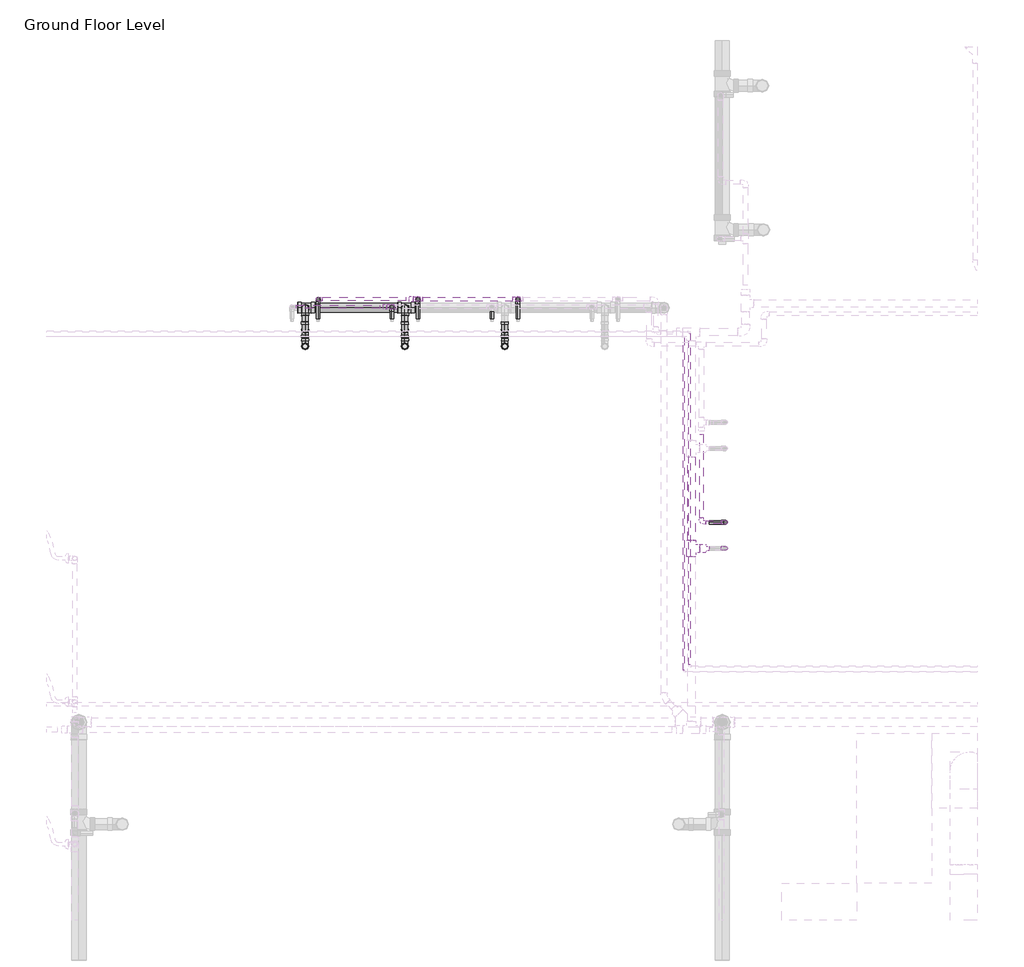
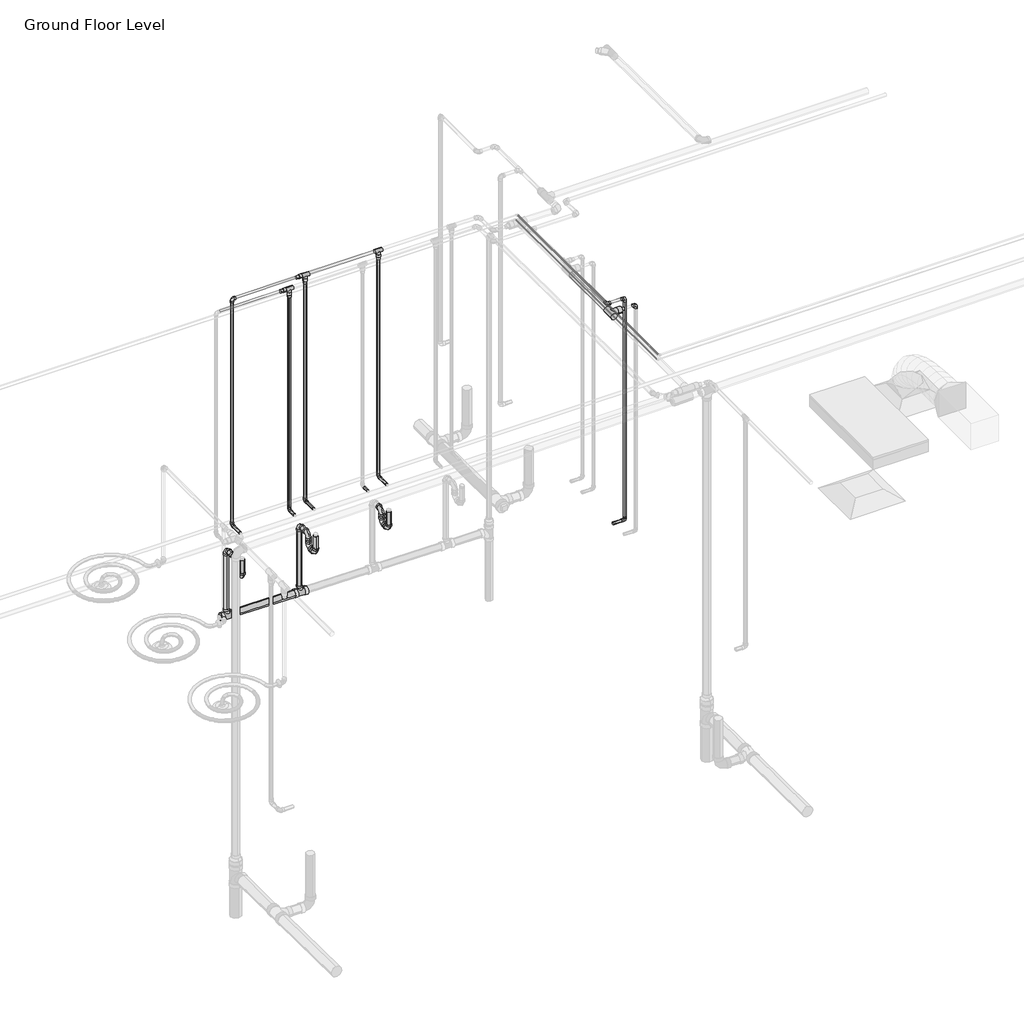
# One storey, part 7 of 75: 33 pipe segments, 32 pipe fittings.
"""IFC4 building model written with IfcOpenShell, lengths in millimetres."""

from ifc_helpers import new_model, si_unit, point, frame, frame_2d, origin, place, context, project, spatial, circle_curve, trimmed, segment, composite_curve, outline, extrude, transform, mapped, element, save
from components import m_bend_pvc_sch_40_dwv_standard_1e7bdcc1, m_bend_pvc_sch_40_dwv_standard_776e50c4, m_bend_pvc_sch_40_dwv_standard_213ff28c, m_tee_reducing_sanitary_pvc_sch_40_dwv_standard_21d2848c, standard_b266ab3f, standard_72b35c3b, standard_cd25fed3, standard_e954f56a, standard_9d5ac8af

model = new_model("IFC4")

# Units and contexts
model_context = context("Model", 3, world=origin())
ifc_project = project(units=[si_unit("LENGTHUNIT", "METRE", prefix="MILLI")], contexts=[model_context])

# Site, building, storey
site = spatial("IfcSite", under=ifc_project)
building = spatial("IfcBuilding", under=site)
storey = spatial("IfcBuildingStorey", under=building, Name="Ground Floor Level", Elevation=900.0)

# Pipe fittings
placement = place(None, origin())
m_bend_pvc_sch_40_dwv_standard_shape = m_bend_pvc_sch_40_dwv_standard_1e7bdcc1(model_context)
element("IfcPipeFitting", 1, ObjectType="M_Bend - PVC - Sch 40 - DWV : Standard", at=placement, inside=storey, context=model_context, shape_type="MappedRepresentation", body=[
    mapped(m_bend_pvc_sch_40_dwv_standard_shape, transform((-3973.215321, -33168.3528578, 1345.0), x_axis=(0.0, 0.0, -1.0), y_axis=(0.0, 1.0, 0.0), z_axis=(1.0, 0.0, 0.0))),
])
element("IfcPipeFitting", 2, ObjectType="M_Bend - PVC - Sch 40 - DWV : Standard", at=placement, inside=storey, context=model_context, shape_type="MappedRepresentation", body=[
    mapped(m_bend_pvc_sch_40_dwv_standard_shape, transform((-3173.215321, -32858.7119065, 1488.3035905), x_axis=(0.0, 0.9999500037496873, -0.009999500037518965), y_axis=(0.0, -0.009999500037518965, -0.9999500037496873), z_axis=(-1.0, 0.0, 0.0))),
])
element("IfcPipeFitting", 3, ObjectType="M_Bend - PVC - Sch 40 - DWV : Standard", at=placement, inside=storey, context=model_context, shape_type="MappedRepresentation", body=[
    mapped(m_bend_pvc_sch_40_dwv_standard_shape, transform((-3173.215321, -33168.3528578, 1345.0), x_axis=(0.0, -0.9999500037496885, 0.009999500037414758), y_axis=(0.0, 0.009999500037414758, 0.9999500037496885), z_axis=(-1.0, 0.0, 0.0))),
])
element("IfcPipeFitting", 4, ObjectType="M_Bend - PVC - Sch 40 - DWV : Standard", at=placement, inside=storey, context=model_context, shape_type="MappedRepresentation", body=[
    mapped(m_bend_pvc_sch_40_dwv_standard_shape, transform((-2373.215321, -33168.3528578, 1344.95), x_axis=(0.0, -0.9999500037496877, 0.009999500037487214), y_axis=(0.0, 0.009999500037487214, 0.9999500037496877), z_axis=(-1.0, 0.0, 0.0))),
])
m_bend_pvc_sch_40_dwv_standard_2_shape = m_bend_pvc_sch_40_dwv_standard_776e50c4(model_context)
element("IfcPipeFitting", 5, ObjectType="M_Bend - PVC - Sch 40 - DWV : Standard", at=placement, inside=storey, context=model_context, shape_type="MappedRepresentation", body=[
    mapped(m_bend_pvc_sch_40_dwv_standard_2_shape, transform((-3973.215321, -33033.3528578, 1343.6), x_axis=(0.0, 0.9999500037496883, -0.009999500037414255), y_axis=(0.0, 0.009999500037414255, 0.9999500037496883), z_axis=(1.0, 0.0, 0.0))),
])
element("IfcPipeFitting", 6, ObjectType="M_Bend - PVC - Sch 40 - DWV : Standard", at=placement, inside=storey, context=model_context, shape_type="MappedRepresentation", body=[
    mapped(m_bend_pvc_sch_40_dwv_standard_2_shape, transform((-3973.215321, -33033.3528578, 1490.0), x_axis=(0.0, 0.0, 1.0), y_axis=(0.0, 1.0, 0.0), z_axis=(-1.0, 0.0, 0.0))),
])
element("IfcPipeFitting", 7, ObjectType="M_Bend - PVC - Sch 40 - DWV : Standard", at=placement, inside=storey, context=model_context, shape_type="MappedRepresentation", body=[
    mapped(m_bend_pvc_sch_40_dwv_standard_2_shape, transform((-3173.215321, -33033.3528578, 1343.6), x_axis=(0.0, 0.9999500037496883, -0.009999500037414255), y_axis=(0.0, 0.009999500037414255, 0.9999500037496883), z_axis=(1.0, 0.0, 0.0))),
])
element("IfcPipeFitting", 8, ObjectType="M_Bend - PVC - Sch 40 - DWV : Standard", at=placement, inside=storey, context=model_context, shape_type="MappedRepresentation", body=[
    mapped(m_bend_pvc_sch_40_dwv_standard_2_shape, transform((-3173.215321, -33033.3528578, 1490.0), x_axis=(0.0, 0.0, 1.0), y_axis=(0.0, 1.0, 0.0), z_axis=(-1.0, 0.0, 0.0))),
])
element("IfcPipeFitting", 9, ObjectType="M_Bend - PVC - Sch 40 - DWV : Standard", at=placement, inside=storey, context=model_context, shape_type="MappedRepresentation", body=[
    mapped(m_bend_pvc_sch_40_dwv_standard_2_shape, transform((-2373.215321, -33033.3528578, 1343.6), x_axis=(0.0, 0.9999500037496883, -0.009999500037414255), y_axis=(0.0, 0.009999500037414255, 0.9999500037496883), z_axis=(1.0, 0.0, 0.0))),
])
element("IfcPipeFitting", 10, ObjectType="M_Bend - PVC - Sch 40 - DWV : Standard", at=placement, inside=storey, context=model_context, shape_type="MappedRepresentation", body=[
    mapped(m_bend_pvc_sch_40_dwv_standard_2_shape, transform((-2373.215321, -33033.3528578, 1490.0), x_axis=(0.0, 0.0, 1.0), y_axis=(0.0, 1.0, 0.0), z_axis=(-1.0, 0.0, 0.0))),
])
m_bend_pvc_sch_40_dwv_standard_3_shape = m_bend_pvc_sch_40_dwv_standard_213ff28c(model_context)
element("IfcPipeFitting", 11, ObjectType="M_Bend - PVC - Sch 40 - DWV : Standard", at=placement, inside=storey, context=model_context, shape_type="MappedRepresentation", body=[
    mapped(m_bend_pvc_sch_40_dwv_standard_3_shape, transform((-3973.215321, -32858.7119065, 1488.3035905), x_axis=(0.0, 0.9999543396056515, -0.009556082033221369), y_axis=(0.0, -0.009556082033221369, -0.9999543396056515), z_axis=(-1.0, 0.0, 0.0))),
])
m_tee_reducing_sanitary_pvc_sch_40_dwv_standard_shape = m_tee_reducing_sanitary_pvc_sch_40_dwv_standard_21d2848c(model_context)
element("IfcPipeFitting", 12, ObjectType="M_Tee Reducing Sanitary - PVC - Sch 40 - DWV : Standard", at=placement, inside=storey, context=model_context, shape_type="MappedRepresentation", body=[
    mapped(m_tee_reducing_sanitary_pvc_sch_40_dwv_standard_shape, transform((-3973.215321, -32858.7119065, 718.4349821), x_axis=(-0.9999500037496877, 0.0, 0.009999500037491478), y_axis=(-0.009999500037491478, 0.0, -0.9999500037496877), z_axis=(0.0, -1.0, 0.0))),
])
element("IfcPipeFitting", 13, ObjectType="M_Tee Reducing Sanitary - PVC - Sch 40 - DWV : Standard", at=placement, inside=storey, context=model_context, shape_type="MappedRepresentation", body=[
    mapped(m_tee_reducing_sanitary_pvc_sch_40_dwv_standard_shape, transform((-3173.215321, -32858.7119065, 710.4349821), x_axis=(-0.9999500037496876, 0.0, 0.009999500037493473), y_axis=(-0.009999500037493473, 0.0, -0.9999500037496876), z_axis=(0.0, -1.0, 0.0))),
])
standard_shape = standard_b266ab3f(model_context)
element("IfcPipeFitting", 14, ObjectType="M_Elbow - CPVC - Sch 40 : Standard", at=placement, inside=storey, context=model_context, shape_type="MappedRepresentation", body=[
    mapped(standard_shape, transform((-2268.9004005, -32789.6855451, 1690.0), x_axis=(0.0, 0.0, -1.0), y_axis=(0.0, -1.0, 0.0), z_axis=(-1.0, 0.0, 0.0))),
])
element("IfcPipeFitting", 15, ObjectType="M_Elbow - CPVC - Sch 40 : Standard", at=placement, inside=storey, context=model_context, shape_type="MappedRepresentation", body=[
    mapped(standard_shape, transform((-3068.9004005, -32789.6855451, 1690.0), x_axis=(0.0, 0.0, -1.0), y_axis=(0.0, -1.0, 0.0), z_axis=(-1.0, 0.0, 0.0))),
])
element("IfcPipeFitting", 16, ObjectType="M_Elbow - CPVC - Sch 40 : Standard", at=placement, inside=storey, context=model_context, shape_type="MappedRepresentation", body=[
    mapped(standard_shape, transform((-3868.9004005, -32789.6855451, 1690.0), x_axis=(0.0, 0.0, -1.0), y_axis=(0.0, -1.0, 0.0), z_axis=(-1.0, 0.0, 0.0))),
])
element("IfcPipeFitting", 17, ObjectType="M_Elbow - CPVC - Sch 40 : Standard", at=placement, inside=storey, context=model_context, shape_type="MappedRepresentation", body=[
    mapped(standard_shape, transform((-3868.9004005, -32789.6855451, 4300.0), x_axis=(-1.0, 0.0, 0.0), y_axis=(0.0, 0.0, -1.0), z_axis=(0.0, -1.0, 0.0))),
])
element("IfcPipeFitting", 18, ObjectType="M_Elbow - CPVC - Sch 40 : Standard", at=placement, inside=storey, context=model_context, shape_type="MappedRepresentation", body=[
    mapped(standard_shape, transform((-607.2327605, -34785.0821277, 4300.0), x_axis=(0.0, 0.0, 1.0), y_axis=(-1.0, 0.0, 0.0), z_axis=(0.0, -1.0, 0.0))),
])
element("IfcPipeFitting", 19, ObjectType="M_Elbow - CPVC - Sch 40 : Standard", at=placement, inside=storey, context=model_context, shape_type="MappedRepresentation", body=[
    mapped(standard_shape, transform((-607.2327605, -34576.4522865, 1690.0), x_axis=(1.0, 0.0, 0.0), y_axis=(0.0, 0.0, 1.0), z_axis=(0.0, -1.0, 0.0))),
])
element("IfcPipeFitting", 20, ObjectType="M_Elbow - CPVC - Sch 40 : Standard", at=placement, inside=storey, context=model_context, shape_type="MappedRepresentation", body=[
    mapped(standard_shape, transform((-607.2327605, -34576.4522865, 4250.0), x_axis=(0.0, 0.0, 1.0), y_axis=(-1.0, 0.0, 0.0), z_axis=(0.0, -1.0, 0.0))),
])
element("IfcPipeFitting", 21, ObjectType="M_Elbow - CPVC - Sch 40 : Standard", at=placement, inside=storey, context=model_context, shape_type="MappedRepresentation", body=[
    mapped(standard_shape, transform((-800.2875664, -34576.4522865, 4250.0), x_axis=(0.0, -1.0, 0.0), y_axis=(1.0, 0.0, 0.0), z_axis=(0.0, 0.0, 1.0))),
])
element("IfcPipeFitting", 22, ObjectType="M_Elbow - CPVC - Sch 40 : Standard", at=placement, inside=storey, context=model_context, shape_type="MappedRepresentation", body=[
    mapped(standard_shape, transform((-3277.5302417, -32850.870708, 1690.0), x_axis=(0.0, 0.0, -1.0), y_axis=(0.0, -1.0, 0.0), z_axis=(-1.0, 0.0, 0.0))),
])
standard_2_shape = standard_72b35c3b(model_context)
element("IfcPipeFitting", 23, ObjectType="M_Tee - CPVC - Sch 40 : Standard", at=placement, inside=storey, context=model_context, shape_type="MappedRepresentation", body=[
    mapped(standard_2_shape, transform((-2268.9004005, -32789.6855451, 4300.0), x_axis=(1.0, 0.0, 0.0), y_axis=(0.0, 0.0, 1.0), z_axis=(0.0, -1.0, 0.0))),
])
element("IfcPipeFitting", 24, ObjectType="M_Tee - CPVC - Sch 40 : Standard", at=placement, inside=storey, context=model_context, shape_type="MappedRepresentation", body=[
    mapped(standard_2_shape, transform((-3068.9004005, -32789.6855451, 4300.0), x_axis=(1.0, 0.0, 0.0), y_axis=(0.0, 0.0, 1.0), z_axis=(0.0, -1.0, 0.0))),
])
element("IfcPipeFitting", 25, ObjectType="M_Tee - CPVC - Sch 40 : Standard", at=placement, inside=storey, context=model_context, shape_type="MappedRepresentation", body=[
    mapped(standard_2_shape, transform((-3277.5302417, -32850.870708, 4250.0), x_axis=(1.0, 0.0, 0.0), y_axis=(0.0, 0.0, 1.0), z_axis=(0.0, -1.0, 0.0))),
])
standard_3_shape = standard_cd25fed3(model_context)
element("IfcPipeFitting", 26, ObjectType="M_Tee - CPVC - Sch 40 : Standard", at=placement, inside=storey, context=model_context, shape_type="MappedRepresentation", body=[
    mapped(standard_3_shape, transform((-881.5205995, -34785.0821277, 4300.0), x_axis=(0.0, -1.0, 0.0), y_axis=(-1.0, 0.0, 0.0), z_axis=(0.0, 0.0, -1.0))),
])
standard_4_shape = standard_e954f56a(model_context)
element("IfcPipeFitting", 27, ObjectType="M_Coupling Reducing - CPVC - Sch 40 : Standard", at=placement, inside=storey, context=model_context, shape_type="MappedRepresentation", body=[
    mapped(standard_4_shape, transform((-2268.9004005, -32789.6855451, 4260.2998), x_axis=(0.0, 0.0, -1.0), y_axis=(1.0, 0.0, 0.0), z_axis=(0.0, -1.0, 0.0))),
])
element("IfcPipeFitting", 28, ObjectType="M_Coupling Reducing - CPVC - Sch 40 : Standard", at=placement, inside=storey, context=model_context, shape_type="MappedRepresentation", body=[
    mapped(standard_4_shape, transform((-3068.9004005, -32789.6855451, 4260.2998), x_axis=(0.0, 0.0, -1.0), y_axis=(1.0, 0.0, 0.0), z_axis=(0.0, -1.0, 0.0))),
])
element("IfcPipeFitting", 29, ObjectType="M_Coupling Reducing - CPVC - Sch 40 : Standard", at=placement, inside=storey, context=model_context, shape_type="MappedRepresentation", body=[
    mapped(standard_4_shape, transform((-3108.6006005, -32789.6855451, 4300.0), x_axis=(-1.0, 0.0, 0.0), y_axis=(0.0, -1.0, 0.0), z_axis=(0.0, 0.0, 1.0))),
])
element("IfcPipeFitting", 30, ObjectType="M_Coupling Reducing - CPVC - Sch 40 : Standard", at=placement, inside=storey, context=model_context, shape_type="MappedRepresentation", body=[
    mapped(standard_4_shape, transform((-3277.5302417, -32850.870708, 4210.2998), x_axis=(0.0, 0.0, -1.0), y_axis=(1.0, 0.0, 0.0), z_axis=(0.0, -1.0, 0.0))),
])
element("IfcPipeFitting", 31, ObjectType="M_Coupling Reducing - CPVC - Sch 40 : Standard", at=placement, inside=storey, context=model_context, shape_type="MappedRepresentation", body=[
    mapped(standard_4_shape, transform((-3317.2304417, -32850.870708, 4250.0), x_axis=(-1.0, 0.0, 0.0), y_axis=(0.0, -1.0, 0.0), z_axis=(0.0, 0.0, 1.0))),
])
standard_5_shape = standard_9d5ac8af(model_context)
element("IfcPipeFitting", 32, ObjectType="M_Coupling Reducing - CPVC - Sch 40 : Standard", at=placement, inside=storey, context=model_context, shape_type="MappedRepresentation", body=[
    mapped(standard_5_shape, transform((-814.8455995, -34785.0821277, 4300.0), x_axis=(1.0, 0.0, 0.0), y_axis=(0.0, 1.0, 0.0), z_axis=(0.0, 0.0, 1.0))),
])

# Pipe segments
element("IfcPipeSegment", 33, ObjectType="CPVC", at=placement, inside=storey, context=model_context, shape_type="SweptSolid", body=[
    extrude(outline(composite_curve([segment(trimmed(circle_curve(frame_2d((1690.0, -2268.9004005)), 13.335), [point((1690.0, -2282.2354005))], [point((1676.665, -2268.9004005))], False, "CARTESIAN"), True, "CONTINUOUS"), segment(trimmed(circle_curve(frame_2d((1690.0, -2268.9004005)), 13.335), [point((1676.665, -2268.9004005))], [point((1690.0, -2255.5654005))], False, "CARTESIAN"), True, "CONTINUOUS"), segment(trimmed(circle_curve(frame_2d((1690.0, -2268.9004005)), 13.335), [point((1690.0, -2255.5654005))], [point((1703.335, -2268.9004005))], False, "CARTESIAN"), True, "CONTINUOUS"), segment(trimmed(circle_curve(frame_2d((1690.0, -2268.9004005)), 13.335), [point((1703.335, -2268.9004005))], [point((1690.0, -2282.2354005))], False, "CARTESIAN"), True, "CONTINUOUS")], self_intersect=False)), frame((0.0, -32944.7846466, 0.0), z_axis=(0.0, 1.0, 0.0), x_axis=(0.0, 0.0, 1.0)), (0.0, 0.0, 1.0), 119.7740515),
])
element("IfcPipeSegment", 34, ObjectType="CPVC", at=placement, inside=storey, context=model_context, shape_type="SweptSolid", body=[
    extrude(outline(composite_curve([segment(trimmed(circle_curve(frame_2d((-2268.9004005, -32789.6855451)), 13.335), [point((-2255.5654005, -32789.6855451))], [point((-2268.9004005, -32803.0205451))], False, "CARTESIAN"), True, "CONTINUOUS"), segment(trimmed(circle_curve(frame_2d((-2268.9004005, -32789.6855451)), 13.335), [point((-2268.9004005, -32803.0205451))], [point((-2282.2354005, -32789.6855451))], False, "CARTESIAN"), True, "CONTINUOUS"), segment(trimmed(circle_curve(frame_2d((-2268.9004005, -32789.6855451)), 13.335), [point((-2282.2354005, -32789.6855451))], [point((-2268.9004005, -32776.3505451))], False, "CARTESIAN"), True, "CONTINUOUS"), segment(trimmed(circle_curve(frame_2d((-2268.9004005, -32789.6855451)), 13.335), [point((-2268.9004005, -32776.3505451))], [point((-2255.5654005, -32789.6855451))], False, "CARTESIAN"), True, "CONTINUOUS")], self_intersect=False)), frame((0.0, 0.0, 1725.32505), z_axis=(0.0, 0.0, 1.0), x_axis=(1.0, 0.0, 0.0)), (0.0, 0.0, 1.0), 2477.82475),
])
element("IfcPipeSegment", 35, ObjectType="CPVC", at=placement, inside=storey, context=model_context, shape_type="SweptSolid", body=[
    extrude(outline(composite_curve([segment(trimmed(circle_curve(frame_2d((1690.0, -3068.9004005)), 13.335), [point((1690.0, -3082.2354005))], [point((1676.665, -3068.9004005))], False, "CARTESIAN"), True, "CONTINUOUS"), segment(trimmed(circle_curve(frame_2d((1690.0, -3068.9004005)), 13.335), [point((1676.665, -3068.9004005))], [point((1690.0, -3055.5654005))], False, "CARTESIAN"), True, "CONTINUOUS"), segment(trimmed(circle_curve(frame_2d((1690.0, -3068.9004005)), 13.335), [point((1690.0, -3055.5654005))], [point((1703.335, -3068.9004005))], False, "CARTESIAN"), True, "CONTINUOUS"), segment(trimmed(circle_curve(frame_2d((1690.0, -3068.9004005)), 13.335), [point((1703.335, -3068.9004005))], [point((1690.0, -3082.2354005))], False, "CARTESIAN"), True, "CONTINUOUS")], self_intersect=False)), frame((0.0, -32944.7846466, 0.0), z_axis=(0.0, 1.0, 0.0), x_axis=(0.0, 0.0, 1.0)), (0.0, 0.0, 1.0), 119.7740515),
])
element("IfcPipeSegment", 36, ObjectType="CPVC", at=placement, inside=storey, context=model_context, shape_type="SweptSolid", body=[
    extrude(outline(composite_curve([segment(trimmed(circle_curve(frame_2d((-3068.9004005, -32789.6855451)), 13.335), [point((-3055.5654005, -32789.6855451))], [point((-3068.9004005, -32803.0205451))], False, "CARTESIAN"), True, "CONTINUOUS"), segment(trimmed(circle_curve(frame_2d((-3068.9004005, -32789.6855451)), 13.335), [point((-3068.9004005, -32803.0205451))], [point((-3082.2354005, -32789.6855451))], False, "CARTESIAN"), True, "CONTINUOUS"), segment(trimmed(circle_curve(frame_2d((-3068.9004005, -32789.6855451)), 13.335), [point((-3082.2354005, -32789.6855451))], [point((-3068.9004005, -32776.3505451))], False, "CARTESIAN"), True, "CONTINUOUS"), segment(trimmed(circle_curve(frame_2d((-3068.9004005, -32789.6855451)), 13.335), [point((-3068.9004005, -32776.3505451))], [point((-3055.5654005, -32789.6855451))], False, "CARTESIAN"), True, "CONTINUOUS")], self_intersect=False)), frame((0.0, 0.0, 1725.32505), z_axis=(0.0, 0.0, 1.0), x_axis=(1.0, 0.0, 0.0)), (0.0, 0.0, 1.0), 2477.82475),
])
element("IfcPipeSegment", 37, ObjectType="CPVC", at=placement, inside=storey, context=model_context, shape_type="SweptSolid", body=[
    extrude(outline(composite_curve([segment(trimmed(circle_curve(frame_2d((-32789.6855451, 4300.0)), 16.7005), [point((-32772.9850451, 4300.0))], [point((-32789.6855451, 4283.2995))], False, "CARTESIAN"), True, "CONTINUOUS"), segment(trimmed(circle_curve(frame_2d((-32789.6855451, 4300.0)), 16.7005), [point((-32789.6855451, 4283.2995))], [point((-32806.3860451, 4300.0))], False, "CARTESIAN"), True, "CONTINUOUS"), segment(trimmed(circle_curve(frame_2d((-32789.6855451, 4300.0)), 16.7005), [point((-32806.3860451, 4300.0))], [point((-32789.6855451, 4316.7005))], False, "CARTESIAN"), True, "CONTINUOUS"), segment(trimmed(circle_curve(frame_2d((-32789.6855451, 4300.0)), 16.7005), [point((-32789.6855451, 4316.7005))], [point((-32772.9850451, 4300.0))], False, "CARTESIAN"), True, "CONTINUOUS")], self_intersect=False)), frame((-3029.2002005, 0.0, 0.0), z_axis=(1.0, 0.0, 0.0), x_axis=(0.0, 1.0, 0.0)), (0.0, 0.0, 1.0), 720.5996),
])
element("IfcPipeSegment", 38, ObjectType="CPVC", at=placement, inside=storey, context=model_context, shape_type="SweptSolid", body=[
    extrude(outline(composite_curve([segment(trimmed(circle_curve(frame_2d((1690.0, -3868.9004005)), 13.335), [point((1690.0, -3882.2354005))], [point((1676.665, -3868.9004005))], False, "CARTESIAN"), True, "CONTINUOUS"), segment(trimmed(circle_curve(frame_2d((1690.0, -3868.9004005)), 13.335), [point((1676.665, -3868.9004005))], [point((1690.0, -3855.5654005))], False, "CARTESIAN"), True, "CONTINUOUS"), segment(trimmed(circle_curve(frame_2d((1690.0, -3868.9004005)), 13.335), [point((1690.0, -3855.5654005))], [point((1703.335, -3868.9004005))], False, "CARTESIAN"), True, "CONTINUOUS"), segment(trimmed(circle_curve(frame_2d((1690.0, -3868.9004005)), 13.335), [point((1703.335, -3868.9004005))], [point((1690.0, -3882.2354005))], False, "CARTESIAN"), True, "CONTINUOUS")], self_intersect=False)), frame((0.0, -32944.7846466, 0.0), z_axis=(0.0, 1.0, 0.0), x_axis=(0.0, 0.0, 1.0)), (0.0, 0.0, 1.0), 119.7740515),
])
element("IfcPipeSegment", 39, ObjectType="CPVC", at=placement, inside=storey, context=model_context, shape_type="SweptSolid", body=[
    extrude(outline(composite_curve([segment(trimmed(circle_curve(frame_2d((-3868.9004005, -32789.6855451)), 13.335), [point((-3855.5654005, -32789.6855451))], [point((-3868.9004005, -32803.0205451))], False, "CARTESIAN"), True, "CONTINUOUS"), segment(trimmed(circle_curve(frame_2d((-3868.9004005, -32789.6855451)), 13.335), [point((-3868.9004005, -32803.0205451))], [point((-3882.2354005, -32789.6855451))], False, "CARTESIAN"), True, "CONTINUOUS"), segment(trimmed(circle_curve(frame_2d((-3868.9004005, -32789.6855451)), 13.335), [point((-3882.2354005, -32789.6855451))], [point((-3868.9004005, -32776.3505451))], False, "CARTESIAN"), True, "CONTINUOUS"), segment(trimmed(circle_curve(frame_2d((-3868.9004005, -32789.6855451)), 13.335), [point((-3868.9004005, -32776.3505451))], [point((-3855.5654005, -32789.6855451))], False, "CARTESIAN"), True, "CONTINUOUS")], self_intersect=False)), frame((0.0, 0.0, 1725.32505), z_axis=(0.0, 0.0, 1.0), x_axis=(1.0, 0.0, 0.0)), (0.0, 0.0, 1.0), 2539.3499),
])
element("IfcPipeSegment", 40, ObjectType="CPVC", at=placement, inside=storey, context=model_context, shape_type="SweptSolid", body=[
    extrude(outline(composite_curve([segment(trimmed(circle_curve(frame_2d((-32789.6855451, 4300.0)), 13.335), [point((-32776.3505451, 4300.0))], [point((-32789.6855451, 4286.665))], False, "CARTESIAN"), True, "CONTINUOUS"), segment(trimmed(circle_curve(frame_2d((-32789.6855451, 4300.0)), 13.335), [point((-32789.6855451, 4286.665))], [point((-32803.0205451, 4300.0))], False, "CARTESIAN"), True, "CONTINUOUS"), segment(trimmed(circle_curve(frame_2d((-32789.6855451, 4300.0)), 13.335), [point((-32803.0205451, 4300.0))], [point((-32789.6855451, 4313.335))], False, "CARTESIAN"), True, "CONTINUOUS"), segment(trimmed(circle_curve(frame_2d((-32789.6855451, 4300.0)), 13.335), [point((-32789.6855451, 4313.335))], [point((-32776.3505451, 4300.0))], False, "CARTESIAN"), True, "CONTINUOUS")], self_intersect=False)), frame((-3833.5753505, 0.0, 0.0), z_axis=(1.0, 0.0, 0.0), x_axis=(0.0, 1.0, 0.0)), (0.0, 0.0, 1.0), 667.82475),
])
element("IfcPipeSegment", 41, ObjectType="CPVC", at=placement, inside=storey, context=model_context, shape_type="SweptSolid", body=[
    extrude(outline(composite_curve([segment(trimmed(circle_curve(frame_2d((4300.0, -881.5205995)), 30.1625), [point((4300.0, -911.6830995))], [point((4269.8375, -881.5205995))], False, "CARTESIAN"), True, "CONTINUOUS"), segment(trimmed(circle_curve(frame_2d((4300.0, -881.5205995)), 30.1625), [point((4269.8375, -881.5205995))], [point((4300.0, -851.3580995))], False, "CARTESIAN"), True, "CONTINUOUS"), segment(trimmed(circle_curve(frame_2d((4300.0, -881.5205995)), 30.1625), [point((4300.0, -851.3580995))], [point((4330.1625, -881.5205995))], False, "CARTESIAN"), True, "CONTINUOUS"), segment(trimmed(circle_curve(frame_2d((4300.0, -881.5205995)), 30.1625), [point((4330.1625, -881.5205995))], [point((4300.0, -911.6830995))], False, "CARTESIAN"), True, "CONTINUOUS")], self_intersect=False)), frame((0.0, -34718.4071277, 0.0), z_axis=(0.0, 1.0, 0.0), x_axis=(0.0, 0.0, 1.0)), (0.0, 0.0, 1.0), 666.65),
])
element("IfcPipeSegment", 42, ObjectType="CPVC", at=placement, inside=storey, context=model_context, shape_type="SweptSolid", body=[
    extrude(outline(composite_curve([segment(trimmed(circle_curve(frame_2d((-34576.4522865, 1690.0)), 13.335), [point((-34589.7872865, 1690.0))], [point((-34576.4522865, 1703.335))], False, "CARTESIAN"), True, "CONTINUOUS"), segment(trimmed(circle_curve(frame_2d((-34576.4522865, 1690.0)), 13.335), [point((-34576.4522865, 1703.335))], [point((-34563.1172865, 1690.0))], False, "CARTESIAN"), True, "CONTINUOUS"), segment(trimmed(circle_curve(frame_2d((-34576.4522865, 1690.0)), 13.335), [point((-34563.1172865, 1690.0))], [point((-34576.4522865, 1676.665))], False, "CARTESIAN"), True, "CONTINUOUS"), segment(trimmed(circle_curve(frame_2d((-34576.4522865, 1690.0)), 13.335), [point((-34576.4522865, 1676.665))], [point((-34589.7872865, 1690.0))], False, "CARTESIAN"), True, "CONTINUOUS")], self_intersect=False)), frame((-737.2327605, 0.0, 0.0), z_axis=(1.0, 0.0, 0.0), x_axis=(0.0, 1.0, 0.0)), (0.0, 0.0, 1.0), 94.67495),
])
element("IfcPipeSegment", 43, ObjectType="CPVC", at=placement, inside=storey, context=model_context, shape_type="SweptSolid", body=[
    extrude(outline(composite_curve([segment(trimmed(circle_curve(frame_2d((-34576.4522865, 4250.0)), 13.335), [point((-34589.7872865, 4250.0))], [point((-34576.4522865, 4263.335))], False, "CARTESIAN"), True, "CONTINUOUS"), segment(trimmed(circle_curve(frame_2d((-34576.4522865, 4250.0)), 13.335), [point((-34576.4522865, 4263.335))], [point((-34563.1172865, 4250.0))], False, "CARTESIAN"), True, "CONTINUOUS"), segment(trimmed(circle_curve(frame_2d((-34576.4522865, 4250.0)), 13.335), [point((-34563.1172865, 4250.0))], [point((-34576.4522865, 4236.665))], False, "CARTESIAN"), True, "CONTINUOUS"), segment(trimmed(circle_curve(frame_2d((-34576.4522865, 4250.0)), 13.335), [point((-34576.4522865, 4236.665))], [point((-34589.7872865, 4250.0))], False, "CARTESIAN"), True, "CONTINUOUS")], self_intersect=False)), frame((-764.9625164, 0.0, 0.0), z_axis=(1.0, 0.0, 0.0), x_axis=(0.0, 1.0, 0.0)), (0.0, 0.0, 1.0), 122.4047059),
])
element("IfcPipeSegment", 44, ObjectType="CPVC", at=placement, inside=storey, context=model_context, shape_type="SweptSolid", body=[
    extrude(outline(composite_curve([segment(trimmed(circle_curve(frame_2d((-607.2327605, -34576.4522865)), 13.335), [point((-620.5677605, -34576.4522865))], [point((-607.2327605, -34563.1172865))], False, "CARTESIAN"), True, "CONTINUOUS"), segment(trimmed(circle_curve(frame_2d((-607.2327605, -34576.4522865)), 13.335), [point((-607.2327605, -34563.1172865))], [point((-593.8977605, -34576.4522865))], False, "CARTESIAN"), True, "CONTINUOUS"), segment(trimmed(circle_curve(frame_2d((-607.2327605, -34576.4522865)), 13.335), [point((-593.8977605, -34576.4522865))], [point((-607.2327605, -34589.7872865))], False, "CARTESIAN"), True, "CONTINUOUS"), segment(trimmed(circle_curve(frame_2d((-607.2327605, -34576.4522865)), 13.335), [point((-607.2327605, -34589.7872865))], [point((-620.5677605, -34576.4522865))], False, "CARTESIAN"), True, "CONTINUOUS")], self_intersect=False)), frame((0.0, 0.0, 1725.32505), z_axis=(0.0, 0.0, 1.0), x_axis=(1.0, 0.0, 0.0)), (0.0, 0.0, 1.0), 2489.3499),
])
element("IfcPipeSegment", 45, ObjectType="CPVC", at=placement, inside=storey, context=model_context, shape_type="SweptSolid", body=[
    extrude(outline(composite_curve([segment(trimmed(circle_curve(frame_2d((4250.0, -800.2875664)), 13.335), [point((4250.0, -813.6225664))], [point((4236.665, -800.2875664))], False, "CARTESIAN"), True, "CONTINUOUS"), segment(trimmed(circle_curve(frame_2d((4250.0, -800.2875664)), 13.335), [point((4236.665, -800.2875664))], [point((4250.0, -786.9525664))], False, "CARTESIAN"), True, "CONTINUOUS"), segment(trimmed(circle_curve(frame_2d((4250.0, -800.2875664)), 13.335), [point((4250.0, -786.9525664))], [point((4263.335, -800.2875664))], False, "CARTESIAN"), True, "CONTINUOUS"), segment(trimmed(circle_curve(frame_2d((4250.0, -800.2875664)), 13.335), [point((4263.335, -800.2875664))], [point((4250.0, -813.6225664))], False, "CARTESIAN"), True, "CONTINUOUS")], self_intersect=False)), frame((0.0, -34541.1272365, 0.0), z_axis=(0.0, 1.0, 0.0), x_axis=(0.0, 0.0, 1.0)), (0.0, 0.0, 1.0), 667.82475),
])
element("IfcPipeSegment", 46, ObjectType="CPVC", at=placement, inside=storey, context=model_context, shape_type="SweptSolid", body=[
    extrude(outline(composite_curve([segment(trimmed(circle_curve(frame_2d((1690.0, -2477.5302417)), 13.335), [point((1690.0, -2490.8652417))], [point((1676.665, -2477.5302417))], False, "CARTESIAN"), True, "CONTINUOUS"), segment(trimmed(circle_curve(frame_2d((1690.0, -2477.5302417)), 13.335), [point((1676.665, -2477.5302417))], [point((1690.0, -2464.1952417))], False, "CARTESIAN"), True, "CONTINUOUS"), segment(trimmed(circle_curve(frame_2d((1690.0, -2477.5302417)), 13.335), [point((1690.0, -2464.1952417))], [point((1703.335, -2477.5302417))], False, "CARTESIAN"), True, "CONTINUOUS"), segment(trimmed(circle_curve(frame_2d((1690.0, -2477.5302417)), 13.335), [point((1703.335, -2477.5302417))], [point((1690.0, -2490.8652417))], False, "CARTESIAN"), True, "CONTINUOUS")], self_intersect=False)), frame((0.0, -32944.7846466, 0.0), z_axis=(0.0, 1.0, 0.0), x_axis=(0.0, 0.0, 1.0)), (0.0, 0.0, 1.0), 58.5888886),
])
element("IfcPipeSegment", 47, ObjectType="CPVC", at=placement, inside=storey, context=model_context, shape_type="SweptSolid", body=[
    extrude(outline(composite_curve([segment(trimmed(circle_curve(frame_2d((1690.0, -3277.5302417)), 13.335), [point((1690.0, -3290.8652417))], [point((1676.665, -3277.5302417))], False, "CARTESIAN"), True, "CONTINUOUS"), segment(trimmed(circle_curve(frame_2d((1690.0, -3277.5302417)), 13.335), [point((1676.665, -3277.5302417))], [point((1690.0, -3264.1952417))], False, "CARTESIAN"), True, "CONTINUOUS"), segment(trimmed(circle_curve(frame_2d((1690.0, -3277.5302417)), 13.335), [point((1690.0, -3264.1952417))], [point((1703.335, -3277.5302417))], False, "CARTESIAN"), True, "CONTINUOUS"), segment(trimmed(circle_curve(frame_2d((1690.0, -3277.5302417)), 13.335), [point((1703.335, -3277.5302417))], [point((1690.0, -3290.8652417))], False, "CARTESIAN"), True, "CONTINUOUS")], self_intersect=False)), frame((0.0, -32944.7846466, 0.0), z_axis=(0.0, 1.0, 0.0), x_axis=(0.0, 0.0, 1.0)), (0.0, 0.0, 1.0), 58.5888886),
])
element("IfcPipeSegment", 48, ObjectType="CPVC", at=placement, inside=storey, context=model_context, shape_type="SweptSolid", body=[
    extrude(outline(composite_curve([segment(trimmed(circle_curve(frame_2d((-3277.5302417, -32850.870708)), 13.335), [point((-3264.1952417, -32850.870708))], [point((-3277.5302417, -32864.205708))], False, "CARTESIAN"), True, "CONTINUOUS"), segment(trimmed(circle_curve(frame_2d((-3277.5302417, -32850.870708)), 13.335), [point((-3277.5302417, -32864.205708))], [point((-3290.8652417, -32850.870708))], False, "CARTESIAN"), True, "CONTINUOUS"), segment(trimmed(circle_curve(frame_2d((-3277.5302417, -32850.870708)), 13.335), [point((-3290.8652417, -32850.870708))], [point((-3277.5302417, -32837.535708))], False, "CARTESIAN"), True, "CONTINUOUS"), segment(trimmed(circle_curve(frame_2d((-3277.5302417, -32850.870708)), 13.335), [point((-3277.5302417, -32837.535708))], [point((-3264.1952417, -32850.870708))], False, "CARTESIAN"), True, "CONTINUOUS")], self_intersect=False)), frame((0.0, 0.0, 1725.32505), z_axis=(0.0, 0.0, 1.0), x_axis=(1.0, 0.0, 0.0)), (0.0, 0.0, 1.0), 2427.82475),
])
element("IfcPipeSegment", 49, ObjectType="CPVC", at=placement, inside=storey, context=model_context, shape_type="SweptSolid", body=[
    extrude(outline(composite_curve([segment(trimmed(circle_curve(frame_2d((-32850.870708, 4250.0)), 13.335), [point((-32837.535708, 4250.0))], [point((-32850.870708, 4236.665))], False, "CARTESIAN"), True, "CONTINUOUS"), segment(trimmed(circle_curve(frame_2d((-32850.870708, 4250.0)), 13.335), [point((-32850.870708, 4236.665))], [point((-32864.205708, 4250.0))], False, "CARTESIAN"), True, "CONTINUOUS"), segment(trimmed(circle_curve(frame_2d((-32850.870708, 4250.0)), 13.335), [point((-32864.205708, 4250.0))], [point((-32850.870708, 4263.335))], False, "CARTESIAN"), True, "CONTINUOUS"), segment(trimmed(circle_curve(frame_2d((-32850.870708, 4250.0)), 13.335), [point((-32850.870708, 4263.335))], [point((-32837.535708, 4250.0))], False, "CARTESIAN"), True, "CONTINUOUS")], self_intersect=False)), frame((-4042.2051917, 0.0, 0.0), z_axis=(1.0, 0.0, 0.0), x_axis=(0.0, 1.0, 0.0)), (0.0, 0.0, 1.0), 667.82475),
])
element("IfcPipeSegment", 50, ObjectType="Copper", at=placement, inside=storey, context=model_context, shape_type="SweptSolid", body=[
    extrude(outline(composite_curve([segment(trimmed(circle_curve(frame_2d((4390.0, -897.1048173)), 6.5), [point((4390.0, -890.6048173))], [point((4396.5, -897.1048173))], False, "CARTESIAN"), True, "CONTINUOUS"), segment(trimmed(circle_curve(frame_2d((4390.0, -897.1048173)), 6.5), [point((4396.5, -897.1048173))], [point((4390.0, -903.6048173))], False, "CARTESIAN"), True, "CONTINUOUS"), segment(trimmed(circle_curve(frame_2d((4390.0, -897.1048173)), 6.5), [point((4390.0, -903.6048173))], [point((4383.5, -897.1048173))], False, "CARTESIAN"), True, "CONTINUOUS"), segment(trimmed(circle_curve(frame_2d((4390.0, -897.1048173)), 6.5), [point((4383.5, -897.1048173))], [point((4390.0, -890.6048173))], False, "CARTESIAN"), True, "CONTINUOUS")], self_intersect=False)), frame((0.0, -35716.178718, 0.0), z_axis=(0.0, 1.0, 0.0), x_axis=(0.0, 0.0, 1.0)), (0.0, 0.0, 1.0), 2651.425),
])
element("IfcPipeSegment", 51, ObjectType="Copper", at=placement, inside=storey, context=model_context, shape_type="SweptSolid", body=[
    extrude(outline(composite_curve([segment(trimmed(circle_curve(frame_2d((4377.5, -941.0095887)), 3.35), [point((4377.5, -937.6595887))], [point((4380.85, -941.0095887))], False, "CARTESIAN"), True, "CONTINUOUS"), segment(trimmed(circle_curve(frame_2d((4377.5, -941.0095887)), 3.35), [point((4380.85, -941.0095887))], [point((4377.5, -944.3595887))], False, "CARTESIAN"), True, "CONTINUOUS"), segment(trimmed(circle_curve(frame_2d((4377.5, -941.0095887)), 3.35), [point((4377.5, -944.3595887))], [point((4374.15, -941.0095887))], False, "CARTESIAN"), True, "CONTINUOUS"), segment(trimmed(circle_curve(frame_2d((4377.5, -941.0095887)), 3.35), [point((4374.15, -941.0095887))], [point((4377.5, -937.6595887))], False, "CARTESIAN"), True, "CONTINUOUS")], self_intersect=False)), frame((0.0, -35762.4027522, 0.0), z_axis=(0.0, 1.0, 0.0), x_axis=(0.0, 0.0, 1.0)), (0.0, 0.0, 1.0), 2662.725),
])
element("IfcPipeSegment", 52, ObjectType="PVC - DWV", at=placement, inside=storey, context=model_context, shape_type="SweptSolid", body=[
    extrude(outline(composite_curve([segment(trimmed(circle_curve(frame_2d((-3973.215321, -33168.3528578)), 24.13), [point((-3949.085321, -33168.3528578))], [point((-3973.215321, -33192.4828578))], False, "CARTESIAN"), True, "CONTINUOUS"), segment(trimmed(circle_curve(frame_2d((-3973.215321, -33168.3528578)), 24.13), [point((-3973.215321, -33192.4828578))], [point((-3997.345321, -33168.3528578))], False, "CARTESIAN"), True, "CONTINUOUS"), segment(trimmed(circle_curve(frame_2d((-3973.215321, -33168.3528578)), 24.13), [point((-3997.345321, -33168.3528578))], [point((-3973.215321, -33144.2228578))], False, "CARTESIAN"), True, "CONTINUOUS"), segment(trimmed(circle_curve(frame_2d((-3973.215321, -33168.3528578)), 24.13), [point((-3973.215321, -33144.2228578))], [point((-3949.085321, -33168.3528578))], False, "CARTESIAN"), True, "CONTINUOUS")], self_intersect=False)), frame((0.0, 0.0, 1406.8998), z_axis=(0.0, 0.0, 1.0), x_axis=(1.0, 0.0, 0.0)), (0.0, 0.0, 1.0), 143.1002),
])
element("IfcPipeSegment", 53, ObjectType="PVC - DWV", at=placement, inside=storey, context=model_context, shape_type="SweptSolid", body=[
    extrude(outline(composite_curve([segment(trimmed(circle_curve(frame_2d((0.0, -24.1299999)), 24.13), [point((24.13, -24.1299999))], [point((0.0, -48.2599999))], False, "CARTESIAN"), True, "CONTINUOUS"), segment(trimmed(circle_curve(frame_2d((0.0, -24.1299999)), 24.13), [point((0.0, -48.2599999))], [point((-24.13, -24.1299999))], False, "CARTESIAN"), True, "CONTINUOUS"), segment(trimmed(circle_curve(frame_2d((0.0, -24.1299999)), 24.13), [point((-24.13, -24.1299999))], [point((0.0, 0.0))], False, "CARTESIAN"), True, "CONTINUOUS"), segment(trimmed(circle_curve(frame_2d((0.0, -24.1299999)), 24.13), [point((0.0, 0.0))], [point((24.13, -24.1299999))], False, "CARTESIAN"), True, "CONTINUOUS")], self_intersect=False)), frame((-3973.215321, -33095.0082751, 1368.3477606), z_axis=(0.0, -0.9999500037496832, 0.009999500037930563), x_axis=(1.0, 0.0, 0.0)), (0.0, 0.0, 1.0), 11.2071498),
])
element("IfcPipeSegment", 54, ObjectType="PVC - DWV", at=placement, inside=storey, context=model_context, shape_type="SweptSolid", body=[
    extrude(outline(composite_curve([segment(trimmed(circle_curve(frame_2d((-3973.215321, -33033.3528578)), 24.13), [point((-3997.345321, -33033.3528578))], [point((-3973.215321, -33009.2228578))], False, "CARTESIAN"), True, "CONTINUOUS"), segment(trimmed(circle_curve(frame_2d((-3973.215321, -33033.3528578)), 24.13), [point((-3973.215321, -33009.2228578))], [point((-3949.085321, -33033.3528578))], False, "CARTESIAN"), True, "CONTINUOUS"), segment(trimmed(circle_curve(frame_2d((-3973.215321, -33033.3528578)), 24.13), [point((-3949.085321, -33033.3528578))], [point((-3973.215321, -33057.4828578))], False, "CARTESIAN"), True, "CONTINUOUS"), segment(trimmed(circle_curve(frame_2d((-3973.215321, -33033.3528578)), 24.13), [point((-3973.215321, -33057.4828578))], [point((-3997.345321, -33033.3528578))], False, "CARTESIAN"), True, "CONTINUOUS")], self_intersect=False)), frame((0.0, 0.0, 1405.4998), z_axis=(0.0, 0.0, 1.0), x_axis=(1.0, 0.0, 0.0)), (0.0, 0.0, 1.0), 22.6004),
])
element("IfcPipeSegment", 55, ObjectType="PVC - DWV", at=placement, inside=storey, context=model_context, shape_type="SweptSolid", body=[
    extrude(outline(composite_curve([segment(trimmed(circle_curve(frame_2d((0.0, -24.13)), 24.13), [point((24.13, -24.13))], [point((0.0, -48.2600001))], False, "CARTESIAN"), True, "CONTINUOUS"), segment(trimmed(circle_curve(frame_2d((0.0, -24.13)), 24.13), [point((0.0, -48.2600001))], [point((-24.13, -24.13))], False, "CARTESIAN"), True, "CONTINUOUS"), segment(trimmed(circle_curve(frame_2d((0.0, -24.13)), 24.13), [point((-24.13, -24.13))], [point((0.0, 0.0))], False, "CARTESIAN"), True, "CONTINUOUS"), segment(trimmed(circle_curve(frame_2d((0.0, -24.13)), 24.13), [point((0.0, 0.0))], [point((24.13, -24.13))], False, "CARTESIAN"), True, "CONTINUOUS")], self_intersect=False)), frame((-3973.215321, -32920.3782919, 1513.0240083), z_axis=(0.0, -0.9999543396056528, 0.009556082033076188), x_axis=(1.0, 0.0, 0.0)), (0.0, 0.0, 1.0), 50.8495942),
])
element("IfcPipeSegment", 56, ObjectType="PVC - DWV", at=placement, inside=storey, context=model_context, shape_type="SweptSolid", body=[
    extrude(outline(composite_curve([segment(trimmed(circle_curve(frame_2d((-3973.215321, -32858.7119065)), 24.13), [point((-3997.345321, -32858.7119065))], [point((-3973.215321, -32834.5819065))], False, "CARTESIAN"), True, "CONTINUOUS"), segment(trimmed(circle_curve(frame_2d((-3973.215321, -32858.7119065)), 24.13), [point((-3973.215321, -32834.5819065))], [point((-3949.085321, -32858.7119065))], False, "CARTESIAN"), True, "CONTINUOUS"), segment(trimmed(circle_curve(frame_2d((-3973.215321, -32858.7119065)), 24.13), [point((-3949.085321, -32858.7119065))], [point((-3973.215321, -32882.8419065))], False, "CARTESIAN"), True, "CONTINUOUS"), segment(trimmed(circle_curve(frame_2d((-3973.215321, -32858.7119065)), 24.13), [point((-3973.215321, -32882.8419065))], [point((-3997.345321, -32858.7119065))], False, "CARTESIAN"), True, "CONTINUOUS")], self_intersect=False)), frame((0.0, 0.0, 799.2824384), z_axis=(0.0, 0.0, 1.0), x_axis=(1.0, 0.0, 0.0)), (0.0, 0.0, 1.0), 627.1213521),
])
element("IfcPipeSegment", 57, ObjectType="PVC - DWV", at=placement, inside=storey, context=model_context, shape_type="SweptSolid", body=[
    extrude(outline(composite_curve([segment(trimmed(circle_curve(frame_2d((-3173.215321, -33168.3528578)), 24.13), [point((-3197.345321, -33168.3528578))], [point((-3173.215321, -33144.2228578))], False, "CARTESIAN"), True, "CONTINUOUS"), segment(trimmed(circle_curve(frame_2d((-3173.215321, -33168.3528578)), 24.13), [point((-3173.215321, -33144.2228578))], [point((-3149.085321, -33168.3528578))], False, "CARTESIAN"), True, "CONTINUOUS"), segment(trimmed(circle_curve(frame_2d((-3173.215321, -33168.3528578)), 24.13), [point((-3149.085321, -33168.3528578))], [point((-3173.215321, -33192.4828578))], False, "CARTESIAN"), True, "CONTINUOUS"), segment(trimmed(circle_curve(frame_2d((-3173.215321, -33168.3528578)), 24.13), [point((-3173.215321, -33192.4828578))], [point((-3197.345321, -33168.3528578))], False, "CARTESIAN"), True, "CONTINUOUS")], self_intersect=False)), frame((0.0, 0.0, 1406.8998), z_axis=(0.0, 0.0, 1.0), x_axis=(1.0, 0.0, 0.0)), (0.0, 0.0, 1.0), 143.1002),
])
element("IfcPipeSegment", 58, ObjectType="PVC - DWV", at=placement, inside=storey, context=model_context, shape_type="SweptSolid", body=[
    extrude(outline(composite_curve([segment(trimmed(circle_curve(frame_2d((0.0, -24.1299999)), 24.13), [point((24.13, -24.1299999))], [point((0.0, -48.2599999))], False, "CARTESIAN"), True, "CONTINUOUS"), segment(trimmed(circle_curve(frame_2d((0.0, -24.1299999)), 24.13), [point((0.0, -48.2599999))], [point((-24.13, -24.1299999))], False, "CARTESIAN"), True, "CONTINUOUS"), segment(trimmed(circle_curve(frame_2d((0.0, -24.1299999)), 24.13), [point((-24.13, -24.1299999))], [point((0.0, 0.0))], False, "CARTESIAN"), True, "CONTINUOUS"), segment(trimmed(circle_curve(frame_2d((0.0, -24.1299999)), 24.13), [point((0.0, 0.0))], [point((24.13, -24.1299999))], False, "CARTESIAN"), True, "CONTINUOUS")], self_intersect=False)), frame((-3173.215321, -33095.0077751, 1368.3977556), z_axis=(0.0, -0.9999500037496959, 0.009999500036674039), x_axis=(1.0, 0.0, 0.0)), (0.0, 0.0, 1.0), 11.2076498),
])
element("IfcPipeSegment", 59, ObjectType="PVC - DWV", at=placement, inside=storey, context=model_context, shape_type="SweptSolid", body=[
    extrude(outline(composite_curve([segment(trimmed(circle_curve(frame_2d((-3173.215321, -33033.3528578)), 24.13), [point((-3197.345321, -33033.3528578))], [point((-3173.215321, -33009.2228578))], False, "CARTESIAN"), True, "CONTINUOUS"), segment(trimmed(circle_curve(frame_2d((-3173.215321, -33033.3528578)), 24.13), [point((-3173.215321, -33009.2228578))], [point((-3149.085321, -33033.3528578))], False, "CARTESIAN"), True, "CONTINUOUS"), segment(trimmed(circle_curve(frame_2d((-3173.215321, -33033.3528578)), 24.13), [point((-3149.085321, -33033.3528578))], [point((-3173.215321, -33057.4828578))], False, "CARTESIAN"), True, "CONTINUOUS"), segment(trimmed(circle_curve(frame_2d((-3173.215321, -33033.3528578)), 24.13), [point((-3173.215321, -33057.4828578))], [point((-3197.345321, -33033.3528578))], False, "CARTESIAN"), True, "CONTINUOUS")], self_intersect=False)), frame((0.0, 0.0, 1405.4998), z_axis=(0.0, 0.0, 1.0), x_axis=(1.0, 0.0, 0.0)), (0.0, 0.0, 1.0), 22.6004),
])
element("IfcPipeSegment", 60, ObjectType="PVC - DWV", at=placement, inside=storey, context=model_context, shape_type="SweptSolid", body=[
    extrude(outline(composite_curve([segment(trimmed(circle_curve(frame_2d((0.0, -24.13)), 24.13), [point((24.13, -24.13))], [point((0.0, -48.26))], False, "CARTESIAN"), True, "CONTINUOUS"), segment(trimmed(circle_curve(frame_2d((0.0, -24.13)), 24.13), [point((0.0, -48.26))], [point((-24.13, -24.13))], False, "CARTESIAN"), True, "CONTINUOUS"), segment(trimmed(circle_curve(frame_2d((0.0, -24.13)), 24.13), [point((-24.13, -24.13))], [point((0.0, 0.0))], False, "CARTESIAN"), True, "CONTINUOUS"), segment(trimmed(circle_curve(frame_2d((0.0, -24.13)), 24.13), [point((0.0, 0.0))], [point((24.13, -24.13))], False, "CARTESIAN"), True, "CONTINUOUS")], self_intersect=False)), frame((-3173.215321, -32920.3673239, 1513.0513511), z_axis=(0.0, -0.9999500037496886, 0.009999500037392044), x_axis=(1.0, 0.0, 0.0)), (0.0, 0.0, 1.0), 50.8495831),
])
element("IfcPipeSegment", 61, ObjectType="PVC - DWV", at=placement, inside=storey, context=model_context, shape_type="SweptSolid", body=[
    extrude(outline(composite_curve([segment(trimmed(circle_curve(frame_2d((-3173.215321, -32858.7119065)), 24.13), [point((-3197.345321, -32858.7119065))], [point((-3173.215321, -32834.5819065))], False, "CARTESIAN"), True, "CONTINUOUS"), segment(trimmed(circle_curve(frame_2d((-3173.215321, -32858.7119065)), 24.13), [point((-3173.215321, -32834.5819065))], [point((-3149.085321, -32858.7119065))], False, "CARTESIAN"), True, "CONTINUOUS"), segment(trimmed(circle_curve(frame_2d((-3173.215321, -32858.7119065)), 24.13), [point((-3149.085321, -32858.7119065))], [point((-3173.215321, -32882.8419065))], False, "CARTESIAN"), True, "CONTINUOUS"), segment(trimmed(circle_curve(frame_2d((-3173.215321, -32858.7119065)), 24.13), [point((-3173.215321, -32882.8419065))], [point((-3197.345321, -32858.7119065))], False, "CARTESIAN"), True, "CONTINUOUS")], self_intersect=False)), frame((0.0, 0.0, 791.2824384), z_axis=(0.0, 0.0, 1.0), x_axis=(1.0, 0.0, 0.0)), (0.0, 0.0, 1.0), 635.1213521),
])
element("IfcPipeSegment", 62, ObjectType="PVC - DWV", at=placement, inside=storey, context=model_context, shape_type="SweptSolid", body=[
    extrude(outline(composite_curve([segment(trimmed(circle_curve(frame_2d((-2373.215321, -33168.3528578)), 24.13), [point((-2397.345321, -33168.3528578))], [point((-2373.215321, -33144.2228578))], False, "CARTESIAN"), True, "CONTINUOUS"), segment(trimmed(circle_curve(frame_2d((-2373.215321, -33168.3528578)), 24.13), [point((-2373.215321, -33144.2228578))], [point((-2349.085321, -33168.3528578))], False, "CARTESIAN"), True, "CONTINUOUS"), segment(trimmed(circle_curve(frame_2d((-2373.215321, -33168.3528578)), 24.13), [point((-2349.085321, -33168.3528578))], [point((-2373.215321, -33192.4828578))], False, "CARTESIAN"), True, "CONTINUOUS"), segment(trimmed(circle_curve(frame_2d((-2373.215321, -33168.3528578)), 24.13), [point((-2373.215321, -33192.4828578))], [point((-2397.345321, -33168.3528578))], False, "CARTESIAN"), True, "CONTINUOUS")], self_intersect=False)), frame((0.0, 0.0, 1406.8498), z_axis=(0.0, 0.0, 1.0), x_axis=(1.0, 0.0, 0.0)), (0.0, 0.0, 1.0), 143.1502),
])
element("IfcPipeSegment", 63, ObjectType="PVC - DWV", at=placement, inside=storey, context=model_context, shape_type="SweptSolid", body=[
    extrude(outline(composite_curve([segment(trimmed(circle_curve(frame_2d((0.0, -24.1299999)), 24.13), [point((24.13, -24.1299999))], [point((0.0, -48.2599999))], False, "CARTESIAN"), True, "CONTINUOUS"), segment(trimmed(circle_curve(frame_2d((0.0, -24.1299999)), 24.13), [point((0.0, -48.2599999))], [point((-24.13, -24.1299999))], False, "CARTESIAN"), True, "CONTINUOUS"), segment(trimmed(circle_curve(frame_2d((0.0, -24.1299999)), 24.13), [point((-24.13, -24.1299999))], [point((0.0, 0.0))], False, "CARTESIAN"), True, "CONTINUOUS"), segment(trimmed(circle_curve(frame_2d((0.0, -24.1299999)), 24.13), [point((0.0, 0.0))], [point((24.13, -24.1299999))], False, "CARTESIAN"), True, "CONTINUOUS")], self_intersect=False)), frame((-2373.215321, -33095.0082751, 1368.3477606), z_axis=(0.0, -0.9999500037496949, 0.009999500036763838), x_axis=(1.0, 0.0, 0.0)), (0.0, 0.0, 1.0), 11.2071498),
])
element("IfcPipeSegment", 64, ObjectType="PVC - DWV", at=placement, inside=storey, context=model_context, shape_type="SweptSolid", body=[
    extrude(outline(composite_curve([segment(trimmed(circle_curve(frame_2d((-2373.215321, -33033.3528578)), 24.13), [point((-2397.345321, -33033.3528578))], [point((-2373.215321, -33009.2228578))], False, "CARTESIAN"), True, "CONTINUOUS"), segment(trimmed(circle_curve(frame_2d((-2373.215321, -33033.3528578)), 24.13), [point((-2373.215321, -33009.2228578))], [point((-2349.085321, -33033.3528578))], False, "CARTESIAN"), True, "CONTINUOUS"), segment(trimmed(circle_curve(frame_2d((-2373.215321, -33033.3528578)), 24.13), [point((-2349.085321, -33033.3528578))], [point((-2373.215321, -33057.4828578))], False, "CARTESIAN"), True, "CONTINUOUS"), segment(trimmed(circle_curve(frame_2d((-2373.215321, -33033.3528578)), 24.13), [point((-2373.215321, -33057.4828578))], [point((-2397.345321, -33033.3528578))], False, "CARTESIAN"), True, "CONTINUOUS")], self_intersect=False)), frame((0.0, 0.0, 1405.4998), z_axis=(0.0, 0.0, 1.0), x_axis=(1.0, 0.0, 0.0)), (0.0, 0.0, 1.0), 22.6004),
])
element("IfcPipeSegment", 65, ObjectType="PVC - DWV", at=placement, inside=storey, context=model_context, shape_type="SweptSolid", body=[
    extrude(outline(composite_curve([segment(trimmed(circle_curve(frame_2d((0.0, -36.5125)), 36.5125), [point((0.0, -73.025))], [point((-36.5125, -36.5125))], False, "CARTESIAN"), True, "CONTINUOUS"), segment(trimmed(circle_curve(frame_2d((0.0, -36.5125)), 36.5125), [point((-36.5125, -36.5125))], [point((0.0, 0.0))], False, "CARTESIAN"), True, "CONTINUOUS"), segment(trimmed(circle_curve(frame_2d((0.0, -36.5125)), 36.5125), [point((0.0, 0.0))], [point((36.5125001, -36.5125))], False, "CARTESIAN"), True, "CONTINUOUS"), segment(trimmed(circle_curve(frame_2d((0.0, -36.5125)), 36.5125), [point((36.5125001, -36.5125))], [point((0.0, -73.025))], False, "CARTESIAN"), True, "CONTINUOUS")], self_intersect=False)), frame((-3232.6980903, -32822.1994065, 711.0298098), z_axis=(-0.9999500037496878, 0.0, 0.009999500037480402), x_axis=(0.009999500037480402, 0.0, 0.9999500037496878)), (0.0, 0.0, 1.0), 661.4911369),
])

save(model, "model.ifc")
